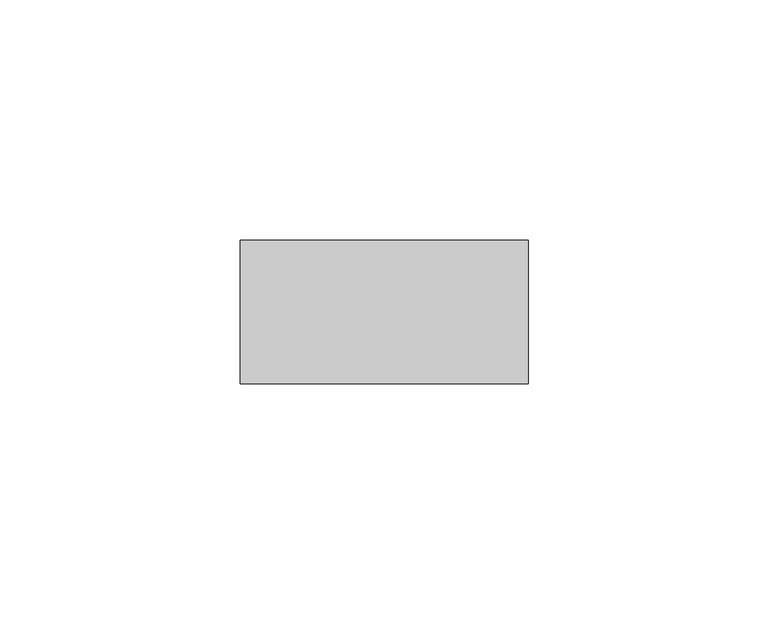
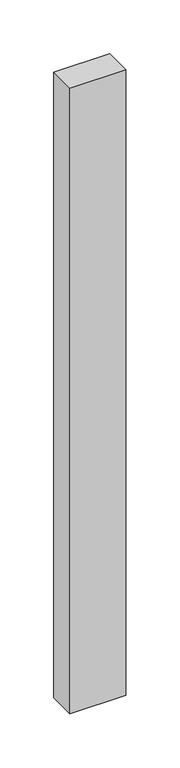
"""IFC4 building model written with IfcOpenShell, lengths in millimetres: member geometry, Прямоугольный импост : Квадрат 30 мм."""

import ifcopenshell
import ifcopenshell.guid

model = None  # the IFC model being written
_history = None  # IfcOwnerHistory: only IFC2X3 demands one
_inside = {}  # id of a spatial element -> (the spatial element, [elements in it])
_under = {}  # id of a project, library or spatial element -> (it, [spatial elements below it])
_declared = {}  # id of a project -> (the project, [libraries it declares])
_typed = {}  # id of a type object -> (the type object, [elements of that type])
_made_of = {}  # id of a material, layer set ... -> (it, [elements and type objects made of it])


def new_model(schema):
    """Start an empty IFC model of exactly this schema.

    Asked for "IFC4X3", IfcOpenShell would pick the latest addendum, in which some entities
    have other attributes; the version numbers below select the first issue.
    IFC2X3 requires an IfcOwnerHistory on every rooted entity: one is made here for all.
    """
    global model, _history
    if schema == "IFC4X3":
        model = ifcopenshell.file(schema_version=(4, 3, 0, 0))
    else:
        model = ifcopenshell.file(schema=schema)
    _inside.clear()
    _under.clear()
    _declared.clear()
    _typed.clear()
    _made_of.clear()
    _history = None
    if model.schema == "IFC2X3":
        org = make("IfcOrganization", Name="unknown")
        user = make(
            "IfcPersonAndOrganization",
            ThePerson=make("IfcPerson", FamilyName="unknown"),
            TheOrganization=org,
        )
        app = make(
            "IfcApplication",
            ApplicationDeveloper=org,
            Version="unknown",
            ApplicationFullName="unknown",
            ApplicationIdentifier="unknown",
        )
        _history = make(
            "IfcOwnerHistory",
            OwningUser=user,
            OwningApplication=app,
            ChangeAction="ADDED",
            CreationDate=0,
        )
    return model


def make(cls, **values):
    """One entity of the class cls with the attributes given. An attribute that is None is left unset."""
    return model.create_entity(
        cls, **{name: value for name, value in values.items() if value is not None}
    )


def rooted(cls, **values):
    """An entity with a GlobalId (a new one), such as an element, a storey or a relation."""
    return make(cls, GlobalId=ifcopenshell.guid.new(), OwnerHistory=_history, **values)


def si_unit(unit_type, name, prefix=None):
    """IfcSIUnit, for example si_unit("LENGTHUNIT", "METRE", prefix="MILLI")."""
    return make("IfcSIUnit", UnitType=unit_type, Prefix=prefix, Name=name)


def assignment(units):
    """IfcUnitAssignment: the units of a project."""
    return None if units is None else make("IfcUnitAssignment", Units=units)


def point(xyz):
    """IfcCartesianPoint."""
    return None if xyz is None else make("IfcCartesianPoint", Coordinates=xyz)


def direction(xyz):
    """IfcDirection."""
    return None if xyz is None else make("IfcDirection", DirectionRatios=xyz)


def frame(location, z_axis=None, x_axis=None):
    """IfcAxis2Placement3D, a coordinate frame: its origin and axes. An axis left out is left unset."""
    return make(
        "IfcAxis2Placement3D",
        Location=point(location),
        Axis=direction(z_axis),
        RefDirection=direction(x_axis),
    )


def origin():
    """The frame at (0, 0, 0) with its axes left unset."""
    return frame((0.0, 0.0, 0.0))


def place(relative_to, where):
    """IfcLocalPlacement: puts the frame where relative to a parent placement (None: the world)."""
    return make(
        "IfcLocalPlacement", PlacementRelTo=relative_to, RelativePlacement=where
    )


def context(
    kind, dimensions, precision=None, world=None, true_north=None, identifier=None
):
    """IfcGeometricRepresentationContext, for example the 3D "Model" context."""
    return make(
        "IfcGeometricRepresentationContext",
        ContextIdentifier=identifier,
        ContextType=kind,
        CoordinateSpaceDimension=dimensions,
        Precision=precision,
        WorldCoordinateSystem=world,
        TrueNorth=true_north,
    )


def project(units=None, contexts=None):
    """IfcProject with its units and contexts."""
    return rooted(
        "IfcProject",
        Name="project",
        RepresentationContexts=contexts,
        UnitsInContext=assignment(units),
    )


def spatial(cls, under=None, at=None, **own):
    """A site, building, storey or space (cls), placed at a placement, below another one or the project."""
    s = rooted(cls, ObjectPlacement=at, **own)
    if under is not None:
        _under.setdefault(under.id(), (under, []))[1].append(s)
    return s


def polyline(points):
    """IfcPolyline through the points."""
    return make("IfcPolyline", Points=[point(p) for p in points])


def outline(outer, holes=None, kind="AREA"):
    """IfcArbitraryClosedProfileDef: a profile drawn as a closed curve; with holes, ...WithVoids."""
    if holes is None:
        return make("IfcArbitraryClosedProfileDef", ProfileType=kind, OuterCurve=outer)
    return make(
        "IfcArbitraryProfileDefWithVoids",
        ProfileType=kind,
        OuterCurve=outer,
        InnerCurves=holes,
    )


def extrude(swept, where, along, depth):
    """IfcExtrudedAreaSolid: the profile swept, set in the frame where, extruded along a direction by depth."""
    return make(
        "IfcExtrudedAreaSolid",
        SweptArea=swept,
        Position=where,
        ExtrudedDirection=direction(along),
        Depth=depth,
    )


def shape(context_of_items, identifier, shape_type, items):
    """IfcShapeRepresentation: the items that make up one representation, for example the "Body"."""
    return make(
        "IfcShapeRepresentation",
        ContextOfItems=context_of_items,
        RepresentationIdentifier=identifier,
        RepresentationType=shape_type,
        Items=items,
    )


def source(mapping_origin, context_of_items, identifier, shape_type, items):
    """IfcRepresentationMap: a shape defined once, which mapped items show again and again."""
    return make(
        "IfcRepresentationMap",
        MappingOrigin=mapping_origin,
        MappedRepresentation=shape(context_of_items, identifier, shape_type, items),
    )


def transform(
    local_origin,
    x_axis=None,
    y_axis=None,
    z_axis=None,
    scale=None,
    scale2=None,
    scale3=None,
    uniform=True,
):
    """IfcCartesianTransformationOperator3D, or its non-uniform kind. x_axis, y_axis, z_axis: its Axis1, 2, 3."""
    if uniform:
        return make(
            "IfcCartesianTransformationOperator3D",
            Axis1=direction(x_axis),
            Axis2=direction(y_axis),
            LocalOrigin=point(local_origin),
            Scale=scale,
            Axis3=direction(z_axis),
        )
    return make(
        "IfcCartesianTransformationOperator3DnonUniform",
        Axis1=direction(x_axis),
        Axis2=direction(y_axis),
        LocalOrigin=point(local_origin),
        Scale=scale,
        Axis3=direction(z_axis),
        Scale2=scale2,
        Scale3=scale3,
    )


def mapped(mapping_source, mapping_target):
    """IfcMappedItem: shows the shape of a source again, moved by a transform."""
    return make(
        "IfcMappedItem", MappingSource=mapping_source, MappingTarget=mapping_target
    )


def made_of(thing, what):
    """Note that an element or type object is made of a material, layer set ...; save() writes the relation."""
    if what is not None:
        _made_of.setdefault(what.id(), (what, []))[1].append(thing)
    return thing


def element(
    cls,
    number,
    at=None,
    inside=None,
    cuts=None,
    type_object=None,
    material=None,
    context=None,
    identifier="Body",
    shape_type=None,
    held_by="IfcProductDefinitionShape",
    body=None,
    shapes=None,
    **own,
):
    """One element of the class cls, such as IfcWall. Its Tag is "e" and its number.

    at: its placement. inside: the storey or other place that contains it. cuts: it is an
    opening in that element (IfcRelVoidsElement). A single representation is given by context,
    identifier, shape_type and body (its items); several are given by shapes. held_by: the class
    of the entity that holds the representations. save() writes the other relations.
    """
    e = rooted(cls, Tag="e%d" % number, ObjectPlacement=at, **own)
    if body is not None:
        shapes = [shape(context, identifier, shape_type, body)]
    if shapes is not None:
        e.Representation = make(held_by, Representations=shapes)
    if inside is not None:
        _inside.setdefault(inside.id(), (inside, []))[1].append(e)
    if cuts is not None:
        rooted(
            "IfcRelVoidsElement", RelatingBuildingElement=cuts, RelatedOpeningElement=e
        )
    if type_object is not None:
        _typed.setdefault(type_object.id(), (type_object, []))[1].append(e)
    return made_of(e, material)


def aggregate(whole, parts):
    """IfcRelAggregates: a whole, such as a stair, and the parts it consists of."""
    return rooted("IfcRelAggregates", RelatingObject=whole, RelatedObjects=parts)


def save(model, path):
    """Write the relations noted so far, then the file.

    IfcRelAggregates (storeys below a building ...), IfcRelContainedInSpatialStructure (elements
    in a storey), IfcRelDefinesByType, IfcRelAssociatesMaterial and IfcRelDeclares: one each for
    every whole, place, type object, material and project.
    """
    for whole, parts in _under.values():
        aggregate(whole, parts)
    for where, things in _inside.values():
        rooted(
            "IfcRelContainedInSpatialStructure",
            RelatedElements=things,
            RelatingStructure=where,
        )
    for kind, things in _typed.values():
        rooted("IfcRelDefinesByType", RelatedObjects=things, RelatingType=kind)
    for what, things in _made_of.values():
        rooted("IfcRelAssociatesMaterial", RelatedObjects=things, RelatingMaterial=what)
    for by, libraries in _declared.values():
        rooted("IfcRelDeclares", RelatingContext=by, RelatedDefinitions=libraries)
    model.write(path)


def member_14055d68(model_context):
    return source(origin(), model_context, "Body", "SweptSolid", [
        extrude(outline(polyline([(30.0, 15.0), (30.0, -15.0), (-30.0, -15.0), (-30.0, 15.0), (30.0, 15.0)])), frame((0.0, 0.0, -710.0), z_axis=(0.0, 0.0, 1.0), x_axis=(1.0, 0.0, 0.0)), (0.0, 0.0, 1.0), 710.0),
    ])


if __name__ == "__main__":
    model = new_model("IFC4")
    model_context = context("Model", 3, world=origin())
    ifc_project = project(units=[si_unit("LENGTHUNIT", "METRE", prefix="MILLI")], contexts=[model_context])
    site = spatial("IfcSite", under=ifc_project)
    building = spatial("IfcBuilding", under=site)
    placement = place(None, origin())
    member_shape = member_14055d68(model_context)
    element("IfcMember", 1, ObjectType="Прямоугольный импост : Квадрат 30 мм", at=placement, inside=building, context=model_context, shape_type="MappedRepresentation", body=[
        mapped(member_shape, transform((0.0, 0.0, 0.0), x_axis=(1.0, 0.0, 0.0), y_axis=(0.0, 1.0, 0.0), z_axis=(0.0, 0.0, 1.0))),
    ])
    save(model, "model.ifc")
